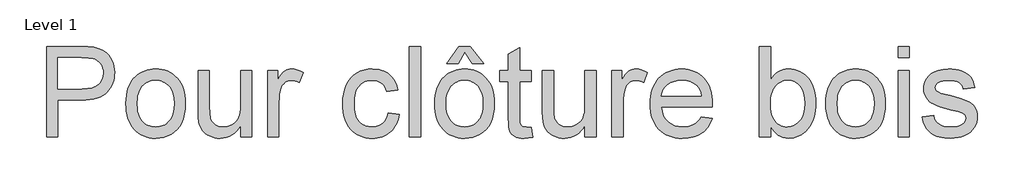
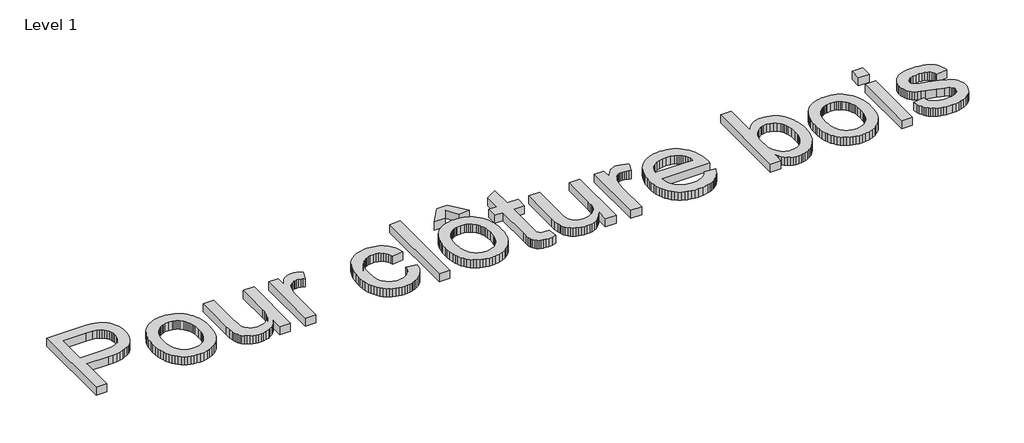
# One storey, part 2 of 4: 1 proxy.
"""IFC4 building model written with IfcOpenShell, lengths in millimetres."""

from ifc_helpers import new_model, si_unit, origin, origin_with_axes, place, context, project, spatial, polyline, outline, extrude, element, save

model = new_model("IFC4")

# Units and contexts
model_context = context("Model", 3, world=origin())
ifc_project = project(units=[si_unit("LENGTHUNIT", "METRE", prefix="MILLI")], contexts=[model_context])

# Site, building, storey
site = spatial("IfcSite", under=ifc_project)
building = spatial("IfcBuilding", under=site)
storey = spatial("IfcBuildingStorey", under=building, Name="Level 1", Elevation=0.0)

# Proxy
placement = place(None, origin())
element("IfcBuildingElementProxy", 1, Name="24\" Arial", ObjectType="24\" Arial", at=placement, inside=storey, context=model_context, shape_type="SweptSolid", body=[
    extrude(outline(polyline([(-79427.594753, -1624.5238862), (-79427.594753, -117.679234), (-78869.1498843, -117.679234), (-78739.103599, -121.2660834), (-78644.0061033, -132.0266318), (-78591.5944153, -143.3275068), (-78543.6203038, -158.8360322), (-78500.083769, -178.5522078), (-78460.9848107, -202.4760338), (-78425.9095617, -231.1018516), (-78394.4441548, -264.9240025), (-78366.58859, -303.9424866), (-78342.3428672, -348.1573039), (-78322.7071657, -396.1084227), (-78308.6816647, -446.3358114), (-78300.266364, -498.8394699), (-78297.4612638, -553.6193982), (-78299.3552813, -600.794516), (-78305.0373336, -646.1187274), (-78314.5074209, -689.5920326), (-78327.7655432, -731.2144314), (-78344.8117003, -770.985924), (-78365.6458924, -808.9065103), (-78390.2681193, -844.9761903), (-78418.6783812, -879.194964), (-78452.0320574, -910.407452), (-78491.4845273, -937.458275), (-78537.0357909, -960.3474328), (-78588.6858482, -979.0749257), (-78646.4346993, -993.6407534), (-78710.282344, -1004.0449161), (-78780.2287824, -1010.2874137), (-78856.2740145, -1012.3682462), (-79239.2391715, -1012.3682462), (-79239.2391715, -1624.5238862), (-79427.594753, -1624.5238862)]), holes=[polyline([(-79239.2391715, -824.0126647), (-78845.2375546, -824.0126647), (-78754.6466133, -819.6900513), (-78678.2191288, -806.7222109), (-78645.3166829, -796.9963307), (-78615.9551011, -785.1091437), (-78590.1343836, -771.06065), (-78567.8545303, -754.8508496), (-78531.9630431, -716.7520705), (-78506.3262666, -671.6175482), (-78490.9442006, -619.4472828), (-78485.8168453, -560.2412742), (-78488.8403755, -516.2793757), (-78497.9109659, -475.6284153), (-78513.0286167, -438.2883928), (-78534.1933277, -404.2593082), (-78560.2784604, -374.6448076), (-78590.1573762, -350.5485369), (-78623.8300751, -331.9704961), (-78661.296557, -318.9106853), (-78733.9532511, -309.2537829), (-78849.6521386, -306.0348155), (-79239.2391715, -306.0348155), (-79239.2391715, -824.0126647)])]), origin_with_axes(), (0.0, 0.0, 1.0), 150.0),
    extrude(outline(polyline([(-78109.1056823, -1071.2293655), (-78106.5592491, -997.0953953), (-78098.9199495, -927.9163357), (-78086.1877836, -863.6921868), (-78068.3627513, -804.4229485), (-78045.4448526, -750.1086208), (-78017.4340876, -700.7492037), (-77984.3304562, -656.3446972), (-77946.1339584, -616.8951014), (-77911.1736726, -588.1830613), (-77874.3509841, -563.2992932), (-77835.6658931, -542.2437972), (-77795.1183994, -525.0165731), (-77752.7085031, -511.6176211), (-77708.4362043, -502.046941), (-77662.3015028, -496.304533), (-77614.3043988, -494.390397), (-77561.1023393, -496.7212743), (-77510.3892314, -503.7139063), (-77462.1650752, -515.368293), (-77416.4298706, -531.6844343), (-77373.1836176, -552.6623302), (-77332.4263163, -578.3019809), (-77294.1579665, -608.6033861), (-77258.3785684, -643.5665461), (-77226.0020788, -682.6396377), (-77197.9424544, -725.2708379), (-77174.1996953, -771.4601469), (-77154.7738015, -821.2075645), (-77139.664773, -874.5130908), (-77128.8726098, -931.3767257), (-77122.3973119, -991.7984694), (-77120.2388792, -1055.7783217), (-77124.0556549, -1156.600981), (-77135.505982, -1246.0652837), (-77154.5898605, -1324.1712298), (-77181.3072904, -1390.9188193), (-77215.3248787, -1448.5728257), (-77256.3092322, -1499.3980226), (-77304.260351, -1543.39441), (-77359.1782351, -1580.5619878), (-77418.9245704, -1610.0960142), (-77481.3610428, -1631.1917474), (-77546.4876522, -1643.8491873), (-77614.3043988, -1648.0683339), (-77668.345689, -1645.7460788), (-77719.7370793, -1638.7793135), (-77768.4785696, -1627.168038), (-77814.5701599, -1610.9122524), (-77858.0118502, -1590.0119565), (-77898.8036405, -1564.4671505), (-77936.9455308, -1534.2778343), (-77972.4375211, -1499.4440078), (-78004.4691214, -1460.2415827), (-78032.2298416, -1416.9464704), (-78055.7196818, -1369.5586709), (-78074.938642, -1318.0781842), (-78089.8867221, -1262.5050103), (-78100.5639222, -1202.8391492), (-78106.9702423, -1139.0806009), (-78109.1056823, -1071.2293655)]), holes=[polyline([(-77920.7501008, -1070.8614835), (-77915.3008487, -1162.2226777), (-77908.4892836, -1203.307624), (-77898.9530925, -1241.328803), (-77886.6922754, -1276.2862148), (-77871.7068323, -1308.1798593), (-77853.9967631, -1337.0097366), (-77833.5620679, -1362.7758466), (-77811.0637846, -1385.4954339), (-77787.1629513, -1405.1857429), (-77761.8595678, -1421.8467736), (-77735.1536342, -1435.4785259), (-77707.0451505, -1446.081), (-77677.5341167, -1453.6541958), (-77614.3043988, -1459.7127524), (-77551.3965776, -1453.6197068), (-77522.0120032, -1446.0033999), (-77494.0069863, -1435.3405702), (-77467.3815269, -1421.6312177), (-77442.135625, -1404.8753425), (-77418.2692806, -1385.0729444), (-77395.7824936, -1362.2240236), (-77375.3477984, -1336.253854), (-77357.6377293, -1307.0877096), (-77342.6522861, -1274.7255904), (-77330.391469, -1239.1674963), (-77320.8552779, -1200.4134273), (-77314.0437128, -1158.4633836), (-77308.5944608, -1064.9753715), (-77314.0782018, -976.511248), (-77320.932878, -936.5644367), (-77330.5294247, -899.474459), (-77342.867842, -865.2413149), (-77357.9481297, -833.8650044), (-77375.7702879, -805.3455275), (-77396.3343166, -779.6828843), (-77442.8598927, -737.272988), (-77468.1144169, -720.6119574), (-77494.6967651, -706.980205), (-77522.6069374, -696.3777309), (-77551.8449338, -688.8045352), (-77614.3043988, -682.7459786), (-77677.5341167, -688.7815425), (-77707.0451505, -696.3259975), (-77735.1536342, -706.8882345), (-77761.8595678, -720.4682534), (-77787.1629513, -737.0660544), (-77811.0637846, -756.6816373), (-77833.5620679, -779.3150023), (-77853.9967631, -804.99489), (-77871.7068323, -833.7500413), (-77886.6922754, -865.5804561), (-77898.9530925, -900.4861344), (-77908.4892836, -938.4670764), (-77915.3008487, -979.5232818), (-77920.7501008, -1070.8614835)])]), origin_with_axes(), (0.0, 0.0, 1.0), 150.0),
    extrude(outline(polyline([(-76202.0054193, -1624.5238862), (-76202.0054193, -1434.3288947), (-76234.677939, -1484.4240758), (-76270.1555589, -1527.8398993), (-76308.438279, -1564.5763655), (-76349.5260994, -1594.6334741), (-76393.4190199, -1618.0112253), (-76440.1170407, -1634.7096189), (-76489.6201616, -1644.7286552), (-76541.9283828, -1648.0683339), (-76588.5919147, -1645.7230862), (-76633.6689554, -1638.687343), (-76677.159505, -1626.9611044), (-76719.0635635, -1610.5443704), (-76757.5302246, -1590.5867721), (-76790.7085821, -1568.2379409), (-76818.5986358, -1543.4978768), (-76841.2003859, -1516.3665796), (-76859.6749598, -1486.4531749), (-76875.1834852, -1453.3667879), (-76887.725962, -1417.1074188), (-76897.3023902, -1377.6750674), (-76905.5797351, -1306.3059604), (-76908.33885, -1202.5632377), (-76908.33885, -517.9348447), (-76719.9832685, -517.9348447), (-76719.9832685, -1113.9036769), (-76717.132183, -1233.0974433), (-76708.5789266, -1305.9380784), (-76697.3010442, -1339.8866887), (-76681.1257328, -1369.9955308), (-76660.0529922, -1396.2646045), (-76634.0828226, -1418.6939099), (-76603.9969732, -1436.6396535), (-76570.5771932, -1449.4580417), (-76533.8234826, -1457.1490747), (-76493.7358415, -1459.7127524), (-76452.4525838, -1457.0915931), (-76412.4799058, -1449.2281155), (-76373.8178073, -1436.1223194), (-76336.4662885, -1417.7742049), (-76302.4487003, -1394.9080397), (-76273.7883936, -1368.2480913), (-76250.4853685, -1337.7943599), (-76232.5396249, -1303.5468454), (-76219.1809099, -1263.3212485), (-76209.6389707, -1214.9332698), (-76203.9138071, -1158.3829094), (-76202.0054193, -1093.6701672), (-76202.0054193, -517.9348447), (-76013.6498378, -517.9348447), (-76013.6498378, -1624.5238862), (-76202.0054193, -1624.5238862)])), origin_with_axes(), (0.0, 0.0, 1.0), 150.0),
    extrude(outline(polyline([(-75754.6609131, -1624.5238862), (-75754.6609131, -517.9348447), (-75589.8497793, -517.9348447), (-75589.8497793, -681.6423326), (-75558.809736, -629.3111188), (-75528.9653091, -586.7287778), (-75500.3164987, -553.8953097), (-75472.8633048, -530.8107145), (-75445.3641257, -514.8768256), (-75416.5773596, -503.4954764), (-75386.5030065, -496.6666669), (-75355.1410664, -494.390397), (-75308.420053, -498.0232317), (-75261.3311576, -508.9217358), (-75213.8743802, -527.0859093), (-75166.0497209, -552.5157523), (-75228.957542, -721.373588), (-75262.0669216, -704.4740089), (-75295.1763012, -692.4028809), (-75328.2856807, -685.1602041), (-75361.3950603, -682.7459786), (-75390.2623006, -685.0682336), (-75417.6350203, -692.0349989), (-75443.5132194, -703.6462744), (-75467.8968979, -719.9020601), (-75489.8663508, -740.2735255), (-75508.5018731, -764.2318405), (-75523.8034649, -791.7770049), (-75535.771126, -822.9090187), (-75549.129841, -874.3205275), (-75558.6717802, -928.1232693), (-75564.3969438, -984.3172441), (-75566.3053316, -1042.9024518), (-75566.3053316, -1624.5238862), (-75754.6609131, -1624.5238862)])), origin_with_axes(), (0.0, 0.0, 1.0), 150.0),
    extrude(outline(polyline([(-73753.3828594, -1224.2682755), (-73565.0272779, -1247.8127231), (-73573.827705, -1293.5306833), (-73585.5137065, -1336.6907139), (-73600.0852824, -1377.2928151), (-73617.5424327, -1415.3369867), (-73637.8851574, -1450.8232288), (-73661.1134565, -1483.7515415), (-73687.22733, -1514.1219246), (-73716.2267779, -1541.9343783), (-73747.5312364, -1566.8095241), (-73780.5601418, -1588.3679839), (-73815.313494, -1606.6097575), (-73851.7912931, -1621.534845), (-73889.993539, -1633.1432464), (-73929.9202318, -1641.4349617), (-73971.5713715, -1646.4099908), (-74014.946958, -1648.0683339), (-74069.1319521, -1645.754701), (-74120.5865721, -1638.8138025), (-74169.310818, -1627.2456382), (-74215.3046896, -1611.0502081), (-74258.568187, -1590.2275124), (-74299.1013103, -1564.7775509), (-74336.9040594, -1534.7003237), (-74371.9764343, -1499.9958308), (-74403.5769228, -1460.9687245), (-74430.9640129, -1417.923657), (-74454.1377046, -1370.8606283), (-74473.0979977, -1319.7796384), (-74487.8448924, -1264.6806874), (-74498.3783886, -1205.5637753), (-74504.6984863, -1142.4289019), (-74506.8051855, -1075.2760674), (-74503.2068397, -988.6743465), (-74492.4118024, -907.6598334), (-74474.4200736, -832.232528), (-74449.2316533, -762.3924305), (-74416.6740967, -699.5420909), (-74376.5749592, -645.0840593), (-74328.9342408, -599.0183357), (-74273.7519416, -561.3449201), (-74213.5227612, -532.0523163), (-74150.7413994, -511.1290278), (-74085.4078563, -498.5750547), (-74017.5221319, -494.390397), (-73933.9554375, -500.1385532), (-73895.1640055, -507.3237484), (-73858.3671838, -517.3830217), (-73823.5649722, -530.3163731), (-73790.7573708, -546.1238026), (-73759.9443797, -564.8053102), (-73731.1259987, -586.3608958), (-73704.5551468, -610.5606333), (-73680.4847428, -637.1745964), (-73658.9147867, -666.2027851), (-73639.8452786, -697.6451994), (-73623.2762185, -731.5018392), (-73609.2076062, -767.7727047), (-73588.5717255, -847.5571124), (-73776.9273071, -871.1015601), (-73791.6310906, -827.1051727), (-73811.0943474, -788.9259194), (-73835.3170775, -756.5638001), (-73864.2992809, -730.0188149), (-73897.3051937, -709.336949), (-73933.5990518, -694.5641876), (-73973.1808552, -685.7005308), (-74016.0506039, -682.7459786), (-74080.0505748, -688.5631126), (-74109.6966903, -695.8345302), (-74137.7735591, -706.0145147), (-74164.2811813, -719.1030664), (-74189.2195569, -735.100185), (-74212.5886858, -754.0058706), (-74234.3885681, -775.8201233), (-74254.0903734, -800.7786174), (-74271.1652713, -829.1170274), (-74285.6132618, -860.8353532), (-74297.434345, -895.9335948), (-74306.6285208, -934.4117522), (-74313.1957892, -976.2698255), (-74318.449604, -1070.1257195), (-74313.3107524, -1165.3956599), (-74306.8871878, -1207.7796895), (-74297.8941975, -1246.6630919), (-74286.3317814, -1282.0458672), (-74272.1999394, -1313.9280155), (-74255.4986716, -1342.3095366), (-74236.2279781, -1367.1904306), (-74214.8822001, -1388.8753497), (-74191.9556792, -1407.6689464), (-74167.4484153, -1423.5712204), (-74141.3604086, -1436.5821719), (-74113.6916588, -1446.7018009), (-74084.4421661, -1453.9301073), (-74021.2009519, -1459.7127524), (-73970.2377992, -1456.1029103), (-73923.6662379, -1445.2733841), (-73881.4862679, -1427.2241737), (-73843.6978892, -1401.9552791), (-73811.3587626, -1369.1907889), (-73785.5265487, -1328.6547916), (-73766.2012477, -1280.3472871), (-73753.3828594, -1224.2682755)])), origin_with_axes(), (0.0, 0.0, 1.0), 150.0),
    extrude(outline(polyline([(-73400.216144, -1624.5238862), (-73400.216144, -117.679234), (-73211.8605625, -117.679234), (-73211.8605625, -1624.5238862), (-73400.216144, -1624.5238862)])), origin_with_axes(), (0.0, 0.0, 1.0), 150.0),
    extrude(outline(polyline([(-72976.4160856, -1071.2293655), (-72973.8696524, -997.0953953), (-72966.2303528, -927.9163357), (-72953.4981869, -863.6921868), (-72935.6731546, -804.4229485), (-72912.7552559, -750.1086208), (-72884.7444909, -700.7492037), (-72851.6408595, -656.3446972), (-72813.4443617, -616.8951014), (-72778.4840759, -588.1830613), (-72741.6613874, -563.2992932), (-72702.9762963, -542.2437972), (-72662.4288027, -525.0165731), (-72620.0189064, -511.6176211), (-72575.7466076, -502.046941), (-72529.6119061, -496.304533), (-72481.6148021, -494.390397), (-72428.4127426, -496.7212743), (-72377.6996347, -503.7139063), (-72329.4754785, -515.368293), (-72283.7402739, -531.6844343), (-72240.4940209, -552.6623302), (-72199.7367196, -578.3019809), (-72161.4683698, -608.6033861), (-72125.6889717, -643.5665461), (-72093.3124821, -682.6396377), (-72065.2528577, -725.2708379), (-72041.5100986, -771.4601469), (-72022.0842048, -821.2075645), (-72006.9751763, -874.5130908), (-71996.1830131, -931.3767257), (-71989.7077152, -991.7984694), (-71987.5492825, -1055.7783217), (-71991.3660582, -1156.600981), (-72002.8163853, -1246.0652837), (-72021.9002638, -1324.1712298), (-72048.6176937, -1390.9188193), (-72082.635282, -1448.5728257), (-72123.6196355, -1499.3980226), (-72171.5707543, -1543.39441), (-72226.4886384, -1580.5619878), (-72286.2349737, -1610.0960142), (-72348.6714461, -1631.1917474), (-72413.7980555, -1643.8491873), (-72481.6148021, -1648.0683339), (-72535.6560923, -1645.7460788), (-72587.0474826, -1638.7793135), (-72635.7889729, -1627.168038), (-72681.8805632, -1610.9122524), (-72725.3222535, -1590.0119565), (-72766.1140438, -1564.4671505), (-72804.2559341, -1534.2778343), (-72839.7479244, -1499.4440078), (-72871.7795246, -1460.2415827), (-72899.5402449, -1416.9464704), (-72923.0300851, -1369.5586709), (-72942.2490453, -1318.0781842), (-72957.1971254, -1262.5050103), (-72967.8743255, -1202.8391492), (-72974.2806456, -1139.0806009), (-72976.4160856, -1071.2293655)]), holes=[polyline([(-72788.060504, -1070.8614835), (-72782.611252, -1162.2226777), (-72775.7996869, -1203.307624), (-72766.2634958, -1241.328803), (-72754.0026787, -1276.2862148), (-72739.0172356, -1308.1798593), (-72721.3071664, -1337.0097366), (-72700.8724712, -1362.7758466), (-72678.3741879, -1385.4954339), (-72654.4733545, -1405.1857429), (-72629.1699711, -1421.8467736), (-72602.4640375, -1435.4785259), (-72574.3555538, -1446.081), (-72544.84452, -1453.6541958), (-72481.6148021, -1459.7127524), (-72418.7069809, -1453.6197068), (-72389.3224065, -1446.0033999), (-72361.3173896, -1435.3405702), (-72334.6919302, -1421.6312177), (-72309.4460283, -1404.8753425), (-72285.5796839, -1385.0729444), (-72263.0928969, -1362.2240236), (-72242.6582017, -1336.253854), (-72224.9481326, -1307.0877096), (-72209.9626894, -1274.7255904), (-72197.7018723, -1239.1674963), (-72188.1656812, -1200.4134273), (-72181.3541161, -1158.4633836), (-72175.9048641, -1064.9753715), (-72181.3886051, -976.511248), (-72188.2432813, -936.5644367), (-72197.839828, -899.474459), (-72210.1782453, -865.2413149), (-72225.258533, -833.8650044), (-72243.0806912, -805.3455275), (-72263.6447199, -779.6828843), (-72310.170296, -737.272988), (-72335.4248202, -720.6119574), (-72362.0071684, -706.980205), (-72389.9173407, -696.3777309), (-72419.1553371, -688.8045352), (-72481.6148021, -682.7459786), (-72544.84452, -688.7815425), (-72574.3555538, -696.3259975), (-72602.4640375, -706.8882345), (-72629.1699711, -720.4682534), (-72654.4733545, -737.0660544), (-72678.3741879, -756.6816373), (-72700.8724712, -779.3150023), (-72721.3071664, -804.99489), (-72739.0172356, -833.7500413), (-72754.0026787, -865.5804561), (-72766.2634958, -900.4861344), (-72775.7996869, -938.4670764), (-72782.611252, -979.5232818), (-72788.060504, -1070.8614835)])]), origin_with_axes(), (0.0, 0.0, 1.0), 150.0),
    extrude(outline(polyline([(-72481.9826841, -211.8570247), (-72587.9326987, -400.2126063), (-72776.2882802, -400.2126063), (-72576.1604748, -117.679234), (-72387.8048933, -117.679234), (-72164.1326402, -400.2126063), (-72352.4882218, -400.2126063), (-72481.9826841, -211.8570247)])), origin_with_axes(), (0.0, 0.0, 1.0), 150.0),
    extrude(outline(polyline([(-71375.3936426, -1467.4382743), (-71351.8491949, -1630.0421161), (-71426.4372694, -1643.5617795), (-71492.747999, -1648.0683339), (-71540.8255773, -1646.1139608), (-71583.1549993, -1640.2508415), (-71619.7362652, -1630.478976), (-71650.569375, -1616.7983643), (-71676.4590704, -1599.9447704), (-71698.2100933, -1580.6539583), (-71715.8224439, -1558.9259279), (-71729.2961219, -1534.7606794), (-71739.274921, -1502.3640712), (-71746.4026347, -1455.9419619), (-71750.6792629, -1395.4943516), (-71752.1048056, -1321.0212402), (-71752.1048056, -706.2904262), (-71893.3714918, -706.2904262), (-71893.3714918, -517.9348447), (-71752.1048056, -517.9348447), (-71752.1048056, -249.0131062), (-71563.7492241, -138.2806257), (-71563.7492241, -517.9348447), (-71375.3936426, -517.9348447), (-71375.3936426, -706.2904262), (-71563.7492241, -706.2904262), (-71563.7492241, -1315.5030103), (-71561.2660206, -1377.4911264), (-71553.8164102, -1412.623857), (-71540.8025846, -1432.0756175), (-71521.6267356, -1447.0208235), (-71494.4494533, -1456.5397702), (-71457.4313275, -1459.7127524), (-71375.3936426, -1467.4382743)])), origin_with_axes(), (0.0, 0.0, 1.0), 150.0),
    extrude(outline(polyline([(-70480.7046303, -1624.5238862), (-70480.7046303, -1434.3288947), (-70513.37715, -1484.4240758), (-70548.8547699, -1527.8398993), (-70587.13749, -1564.5763655), (-70628.2253104, -1594.6334741), (-70672.1182309, -1618.0112253), (-70718.8162517, -1634.7096189), (-70768.3193726, -1644.7286552), (-70820.6275938, -1648.0683339), (-70867.2911257, -1645.7230862), (-70912.3681664, -1638.687343), (-70955.858716, -1626.9611044), (-70997.7627745, -1610.5443704), (-71036.2294356, -1590.5867721), (-71069.4077931, -1568.2379409), (-71097.2978468, -1543.4978768), (-71119.8995969, -1516.3665796), (-71138.3741709, -1486.4531749), (-71153.8826962, -1453.3667879), (-71166.425173, -1417.1074188), (-71176.0016012, -1377.6750674), (-71184.2789461, -1306.3059604), (-71187.038061, -1202.5632377), (-71187.038061, -517.9348447), (-70998.6824795, -517.9348447), (-70998.6824795, -1113.9036769), (-70995.831394, -1233.0974433), (-70987.2781377, -1305.9380784), (-70976.0002552, -1339.8866887), (-70959.8249438, -1369.9955308), (-70938.7522032, -1396.2646045), (-70912.7820336, -1418.6939099), (-70882.6961842, -1436.6396535), (-70849.2764042, -1449.4580417), (-70812.5226936, -1457.1490747), (-70772.4350525, -1459.7127524), (-70731.1517948, -1457.0915931), (-70691.1791168, -1449.2281155), (-70652.5170184, -1436.1223194), (-70615.1654995, -1417.7742049), (-70581.1479113, -1394.9080397), (-70552.4876046, -1368.2480913), (-70529.1845795, -1337.7943599), (-70511.2388359, -1303.5468454), (-70497.8801209, -1263.3212485), (-70488.3381817, -1214.9332698), (-70482.6130181, -1158.3829094), (-70480.7046303, -1093.6701672), (-70480.7046303, -517.9348447), (-70292.3490488, -517.9348447), (-70292.3490488, -1624.5238862), (-70480.7046303, -1624.5238862)])), origin_with_axes(), (0.0, 0.0, 1.0), 150.0),
    extrude(outline(polyline([(-70033.3601242, -1624.5238862), (-70033.3601242, -517.9348447), (-69868.5489903, -517.9348447), (-69868.5489903, -681.6423326), (-69837.508947, -629.3111188), (-69807.6645201, -586.7287778), (-69779.0157097, -553.8953097), (-69751.5625159, -530.8107145), (-69724.0633367, -514.8768256), (-69695.2765706, -503.4954764), (-69665.2022175, -496.6666669), (-69633.8402774, -494.390397), (-69587.119264, -498.0232317), (-69540.0303686, -508.9217358), (-69492.5735913, -527.0859093), (-69444.7489319, -552.5157523), (-69507.6567531, -721.373588), (-69540.7661326, -704.4740089), (-69573.8755122, -692.4028809), (-69606.9848918, -685.1602041), (-69640.0942713, -682.7459786), (-69668.9615116, -685.0682336), (-69696.3342313, -692.0349989), (-69722.2124304, -703.6462744), (-69746.5961089, -719.9020601), (-69768.5655618, -740.2735255), (-69787.2010841, -764.2318405), (-69802.5026759, -791.7770049), (-69814.470337, -822.9090187), (-69827.829052, -874.3205275), (-69837.3709912, -928.1232693), (-69843.0961548, -984.3172441), (-69845.0045426, -1042.9024518), (-69845.0045426, -1624.5238862), (-70033.3601242, -1624.5238862)])), origin_with_axes(), (0.0, 0.0, 1.0), 150.0),
    extrude(outline(polyline([(-68552.2672116, -1294.9016185), (-68367.59045, -1318.4460662), (-68395.9058673, -1392.4133399), (-68413.7797589, -1426.1032832), (-68434.1311059, -1457.5974309), (-68456.9599081, -1486.8957829), (-68482.2661657, -1513.9983393), (-68510.0498786, -1538.9051), (-68540.3110467, -1561.616065), (-68572.9002182, -1581.8783155), (-68607.6679408, -1599.4389327), (-68644.6142146, -1614.2979164), (-68683.7390396, -1626.4552667), (-68768.5243432, -1642.6650671), (-68862.0238515, -1648.0683339), (-68922.0518464, -1645.7374566), (-68978.8953629, -1638.7448246), (-69032.5544008, -1627.0904379), (-69083.0289601, -1610.7742966), (-69130.319041, -1589.7964007), (-69174.4246433, -1564.1567501), (-69215.3457671, -1533.8553448), (-69253.0824124, -1498.8921849), (-69286.967793, -1459.7213746), (-69316.3351229, -1416.7970184), (-69341.1844021, -1370.1191161), (-69361.5156305, -1319.6876679), (-69377.3288081, -1265.5026738), (-69388.623935, -1207.5641336), (-69395.4010111, -1145.8720475), (-69397.6600365, -1080.4264153), (-69395.3780185, -1012.7533727), (-69388.5319645, -948.9775799), (-69377.1218745, -889.0990371), (-69361.1477485, -833.1177441), (-69340.6095865, -781.033701), (-69315.5073884, -732.8469078), (-69285.8411544, -688.5573644), (-69251.6108844, -648.165071), (-69213.7420315, -612.1241318), (-69173.1600489, -580.8886511), (-69129.8649366, -554.458629), (-69083.8566946, -532.8340655), (-69035.1353229, -516.0149605), (-68983.7008214, -504.0013141), (-68929.5531903, -496.7931263), (-68872.6924294, -494.390397), (-68817.691197, -496.7873781), (-68765.2593905, -503.9783215), (-68715.3970097, -515.9632271), (-68668.1040548, -532.742095), (-68623.3805257, -554.3149251), (-68581.2264224, -580.6817175), (-68541.6417449, -611.8424721), (-68504.6264932, -647.797189), (-68471.1291131, -688.0975119), (-68442.0980503, -732.2950848), (-68417.5333049, -780.3899075), (-68397.4348769, -832.3819801), (-68381.8027661, -888.2713026), (-68370.6369728, -948.0578749), (-68363.9374968, -1011.7416972), (-68361.7043381, -1079.3227694), (-68362.8079841, -1130.0904847), (-69209.304455, -1130.0904847), (-69198.3944545, -1205.2533748), (-69188.8956265, -1239.3341928), (-69176.7009131, -1271.0812593), (-69161.8103146, -1300.4945745), (-69144.2238308, -1327.5741382), (-69123.9414617, -1352.3199506), (-69100.9632074, -1374.7320115), (-69049.310276, -1411.9110856), (-68991.6562696, -1438.4675671), (-68928.0011881, -1454.4014561), (-68858.3450316, -1459.7127524), (-68806.243744, -1457.2525415), (-68758.0971879, -1449.871909), (-68713.9053632, -1437.5708548), (-68673.66827, -1420.3493789), (-68637.3859082, -1397.7476288), (-68605.0582779, -1369.305752), (-68576.685379, -1335.0237486), (-68552.2672116, -1294.9016185)]), holes=[polyline([(-69209.304455, -941.7349032), (-68550.0599196, -941.7349032), (-68559.7398146, -888.4379991), (-68575.5357478, -842.2228235), (-68597.4477191, -803.0893762), (-68625.4757286, -771.0376574), (-68650.2732744, -750.3442952), (-68676.8412522, -732.4100479), (-68705.1796621, -717.2349156), (-68735.2885042, -704.8188983), (-68800.8174846, -688.2642085), (-68873.4281934, -682.7459786), (-68939.6584488, -687.1490662), (-69000.393467, -700.3583291), (-69055.6332478, -722.3737672), (-69105.3777913, -753.1953806), (-69147.1209015, -791.3976266), (-69178.3563821, -835.5549623), (-69199.0842333, -885.6673878), (-69209.304455, -941.7349032)])]), origin_with_axes(), (0.0, 0.0, 1.0), 150.0),
    extrude(outline(polyline([(-67396.3819827, -1624.5238862), (-67584.7375643, -1624.5238862), (-67584.7375643, -117.679234), (-67396.3819827, -117.679234), (-67396.3819827, -676.4919846), (-67366.4110964, -633.811925), (-67334.4398518, -596.8225401), (-67300.4682488, -565.5238297), (-67264.4962875, -539.9157939), (-67226.5239678, -519.9984328), (-67186.5512897, -505.7717462), (-67144.5782533, -497.2357343), (-67100.6048586, -494.390397), (-67051.4236344, -496.9540747), (-67003.5759824, -504.6451076), (-66957.0619026, -517.4634959), (-66911.8813951, -535.4092395), (-66869.3450394, -557.9994932), (-66830.7634151, -584.7514121), (-66796.1365224, -615.664996), (-66765.464361, -650.740245), (-66738.3215675, -689.8162106), (-66714.2827784, -732.7319446), (-66693.3479936, -779.487447), (-66675.5172132, -830.0827176), (-66661.2732822, -883.5060811), (-66651.0990458, -938.7458619), (-66644.9945039, -995.8020601), (-66642.9596566, -1054.6746757), (-66645.0663558, -1123.5720756), (-66651.3864536, -1188.4457662), (-66661.9199498, -1249.2957474), (-66676.6668444, -1306.1220194), (-66695.6271376, -1358.924582), (-66718.8008292, -1407.7034353), (-66746.1879193, -1452.4585793), (-66777.7884078, -1493.1900139), (-66812.3434487, -1529.4896202), (-66848.5941956, -1560.9492789), (-66886.5406486, -1587.5689902), (-66926.1828076, -1609.3487539), (-66967.5206728, -1626.2885701), (-67010.554244, -1638.3884389), (-67055.2835213, -1645.6483601), (-67101.7085046, -1648.0683339), (-67147.3546128, -1644.9470851), (-67190.4830286, -1635.5833387), (-67231.0937519, -1619.9770947), (-67269.1867829, -1598.128353), (-67304.7621215, -1570.0371138), (-67337.8197676, -1535.703377), (-67368.3597214, -1495.1271426), (-67396.3819827, -1448.3084105), (-67396.3819827, -1624.5238862)]), holes=[polyline([(-67396.3819827, -1063.5038436), (-67393.1630153, -1148.3926139), (-67383.5061129, -1220.5894555), (-67367.4112756, -1280.0943682), (-67344.8785034, -1326.9073521), (-67322.9837765, -1358.0336178), (-67299.2381434, -1385.0097147), (-67273.6416039, -1407.8356429), (-67246.1941582, -1426.5114023), (-67216.8958062, -1441.036993), (-67185.7465479, -1451.4124148), (-67152.7463833, -1457.637668), (-67117.8953124, -1459.7127524), (-67061.5633819, -1453.5967142), (-67034.8804409, -1445.9516665), (-67009.1861828, -1435.2485997), (-66960.7637152, -1404.6684088), (-66916.295979, -1361.8561416), (-66896.3786179, -1335.8917202), (-66879.1169049, -1306.9267612), (-66864.51084, -1274.9612648), (-66852.5604234, -1239.9952307), (-66843.2656548, -1202.0286592), (-66836.6265344, -1161.0615502), (-66831.3152381, -1070.1257195), (-66836.4081045, -977.4654419), (-66851.6867036, -897.7730047), (-66863.145653, -862.7897263), (-66877.1510355, -831.0484079), (-66893.7028512, -802.5490495), (-66912.8011001, -777.2916513), (-66955.6708488, -735.9279195), (-67002.7942331, -706.3823967), (-67054.171253, -688.6550831), (-67109.8019085, -682.7459786), (-67166.133839, -688.8620167), (-67192.81678, -696.5070644), (-67218.5110381, -707.2101312), (-67266.9335057, -737.7903221), (-67311.4012418, -780.6025893), (-67331.318603, -806.429055), (-67348.580316, -834.9801467), (-67363.1863808, -866.2558644), (-67375.1367975, -900.2562082), (-67391.0706864, -976.4307738), (-67396.3819827, -1063.5038436)])]), origin_with_axes(), (0.0, 0.0, 1.0), 150.0),
    extrude(outline(polyline([(-66478.1485228, -1071.2293655), (-66475.6020896, -997.0953953), (-66467.96279, -927.9163357), (-66455.2306241, -863.6921868), (-66437.4055918, -804.4229485), (-66414.4876931, -750.1086208), (-66386.4769281, -700.7492037), (-66353.3732967, -656.3446972), (-66315.1767989, -616.8951014), (-66280.2165131, -588.1830613), (-66243.3938246, -563.2992932), (-66204.7087335, -542.2437972), (-66164.1612399, -525.0165731), (-66121.7513436, -511.6176211), (-66077.4790448, -502.046941), (-66031.3443433, -496.304533), (-65983.3472393, -494.390397), (-65930.1451798, -496.7212743), (-65879.4320719, -503.7139063), (-65831.2079157, -515.368293), (-65785.4727111, -531.6844343), (-65742.2264581, -552.6623302), (-65701.4691568, -578.3019809), (-65663.200807, -608.6033861), (-65627.4214089, -643.5665461), (-65595.0449193, -682.6396377), (-65566.9852949, -725.2708379), (-65543.2425358, -771.4601469), (-65523.816642, -821.2075645), (-65508.7076135, -874.5130908), (-65497.9154503, -931.3767257), (-65491.4401524, -991.7984694), (-65489.2817197, -1055.7783217), (-65493.0984954, -1156.600981), (-65504.5488225, -1246.0652837), (-65523.632701, -1324.1712298), (-65550.3501309, -1390.9188193), (-65584.3677192, -1448.5728257), (-65625.3520727, -1499.3980226), (-65673.3031915, -1543.39441), (-65728.2210756, -1580.5619878), (-65787.9674109, -1610.0960142), (-65850.4038833, -1631.1917474), (-65915.5304927, -1643.8491873), (-65983.3472393, -1648.0683339), (-66037.3885295, -1645.7460788), (-66088.7799198, -1638.7793135), (-66137.5214101, -1627.168038), (-66183.6130004, -1610.9122524), (-66227.0546907, -1590.0119565), (-66267.846481, -1564.4671505), (-66305.9883713, -1534.2778343), (-66341.4803616, -1499.4440078), (-66373.5119618, -1460.2415827), (-66401.2726821, -1416.9464704), (-66424.7625223, -1369.5586709), (-66443.9814825, -1318.0781842), (-66458.9295626, -1262.5050103), (-66469.6067627, -1202.8391492), (-66476.0130828, -1139.0806009), (-66478.1485228, -1071.2293655)]), holes=[polyline([(-66289.7929412, -1070.8614835), (-66284.3436892, -1162.2226777), (-66277.5321241, -1203.307624), (-66267.995933, -1241.328803), (-66255.7351159, -1276.2862148), (-66240.7496728, -1308.1798593), (-66223.0396036, -1337.0097366), (-66202.6049084, -1362.7758466), (-66180.1066251, -1385.4954339), (-66156.2057917, -1405.1857429), (-66130.9024083, -1421.8467736), (-66104.1964747, -1435.4785259), (-66076.087991, -1446.081), (-66046.5769572, -1453.6541958), (-65983.3472393, -1459.7127524), (-65920.4394181, -1453.6197068), (-65891.0548437, -1446.0033999), (-65863.0498268, -1435.3405702), (-65836.4243674, -1421.6312177), (-65811.1784655, -1404.8753425), (-65787.3121211, -1385.0729444), (-65764.8253341, -1362.2240236), (-65744.3906389, -1336.253854), (-65726.6805697, -1307.0877096), (-65711.6951266, -1274.7255904), (-65699.4343095, -1239.1674963), (-65689.8981184, -1200.4134273), (-65683.0865533, -1158.4633836), (-65677.6373013, -1064.9753715), (-65683.1210423, -976.511248), (-65689.9757185, -936.5644367), (-65699.5722652, -899.474459), (-65711.9106825, -865.2413149), (-65726.9909702, -833.8650044), (-65744.8131284, -805.3455275), (-65765.3771571, -779.6828843), (-65811.9027332, -737.272988), (-65837.1572573, -720.6119574), (-65863.7396056, -706.980205), (-65891.6497779, -696.3777309), (-65920.8877743, -688.8045352), (-65983.3472393, -682.7459786), (-66046.5769572, -688.7815425), (-66076.087991, -696.3259975), (-66104.1964747, -706.8882345), (-66130.9024083, -720.4682534), (-66156.2057917, -737.0660544), (-66180.1066251, -756.6816373), (-66202.6049084, -779.3150023), (-66223.0396036, -804.99489), (-66240.7496728, -833.7500413), (-66255.7351159, -865.5804561), (-66267.995933, -900.4861344), (-66277.5321241, -938.4670764), (-66284.3436892, -979.5232818), (-66289.7929412, -1070.8614835)])]), origin_with_axes(), (0.0, 0.0, 1.0), 150.0),
    extrude(outline(polyline([(-65277.3816905, -306.0348155), (-65277.3816905, -117.679234), (-65089.026109, -117.679234), (-65089.026109, -306.0348155), (-65277.3816905, -306.0348155)])), origin_with_axes(), (0.0, 0.0, 1.0), 150.0),
    extrude(outline(polyline([(-65277.3816905, -1624.5238862), (-65277.3816905, -517.9348447), (-65089.026109, -517.9348447), (-65089.026109, -1624.5238862), (-65277.3816905, -1624.5238862)])), origin_with_axes(), (0.0, 0.0, 1.0), 150.0),
    extrude(outline(polyline([(-64877.1260798, -1294.9016185), (-64688.7704982, -1271.3571708), (-64677.389149, -1314.3073938), (-64659.0640271, -1351.9233278), (-64633.7951326, -1384.2049729), (-64601.5824654, -1411.152329), (-64562.334055, -1432.3975142), (-64515.957931, -1447.5726465), (-64462.4540933, -1456.6777259), (-64401.822542, -1459.7127524), (-64341.2599685, -1456.9306448), (-64289.0667105, -1448.584322), (-64245.2427678, -1434.6737841), (-64209.7881405, -1415.1990309), (-64182.4269171, -1391.97648), (-64162.8831861, -1366.8225486), (-64151.1569475, -1339.7372367), (-64147.2482013, -1310.7205443), (-64151.1799402, -1285.2907014), (-64162.9751566, -1262.7119439), (-64182.6338507, -1242.984272), (-64210.1560225, -1226.1076854), (-64280.6973951, -1202.1953557), (-64404.029834, -1172.3969141), (-64575.9226962, -1122.6868595), (-64639.3133625, -1100.5564583), (-64687.6668522, -1080.2424743), (-64726.0300466, -1058.9628002), (-64759.4498266, -1033.9353282), (-64787.9261922, -1005.1600584), (-64811.4591436, -972.6369907), (-64829.8877323, -937.3433118), (-64843.05101, -900.2562082), (-64850.9489765, -861.3756798), (-64853.5816321, -820.7017267), (-64851.4663106, -783.5111563), (-64845.1203462, -747.7231359), (-64834.5437388, -713.3376657), (-64819.7364885, -680.3547456), (-64801.2734109, -649.4411617), (-64779.7293215, -621.2637001), (-64755.1042205, -595.8223609), (-64727.3981077, -573.117144), (-64675.3887907, -542.8128646), (-64607.6525183, -517.3830217), (-64529.3396386, -500.1385532), (-64445.6004994, -494.390397), (-64382.3018036, -496.7011558), (-64323.0038245, -503.6334321), (-64267.7065621, -515.1872261), (-64216.4100164, -531.3625375), (-64170.3327965, -551.4810841), (-64130.6935115, -574.8645835), (-64097.4921615, -601.5130355), (-64070.7287463, -631.4264402), (-64049.0237086, -665.6509621), (-64030.9974909, -705.2327655), (-64016.650093, -750.1718505), (-64005.9815152, -800.468217), (-64194.3370967, -824.0126647), (-64203.3157167, -792.5472578), (-64218.1114707, -764.7376782), (-64238.7243587, -740.583926), (-64265.1543808, -720.0860011), (-64297.5165, -703.7497412), (-64335.9256796, -692.0809842), (-64380.3819195, -685.07973), (-64430.8852196, -682.7459786), (-64489.4704273, -684.9762631), (-64539.0425262, -691.6671169), (-64579.6015162, -702.8185399), (-64611.1473972, -718.4305321), (-64634.8068081, -737.0085728), (-64651.7063872, -757.0581416), (-64661.8461347, -778.5792383), (-64665.2260505, -801.571863), (-64659.6158501, -830.5425701), (-64642.7852488, -856.3862803), (-64613.9984827, -879.4708755), (-64572.5197878, -897.9569457), (-64410.2838279, -938.0560832), (-64243.8632103, -987.2603001), (-64133.8205085, -1026.715644), (-64095.1009285, -1045.9604709), (-64060.7959325, -1069.114044), (-64030.9055204, -1096.1763633), (-64005.4296922, -1127.1474287), (-63985.069723, -1162.0732256), (-63970.5268879, -1200.9997393), (-63961.8011868, -1243.9269696), (-63958.8926198, -1290.8549166), (-63962.3070246, -1337.9897972), (-63972.5502389, -1383.7451204), (-63989.6222627, -1428.120886), (-64013.5230961, -1471.1170942), (-64043.8618644, -1511.0207944), (-64080.247693, -1546.119036), (-64122.6805818, -1576.411819), (-64171.160531, -1601.8991435), (-64224.3654646, -1622.0981643), (-64280.9733066, -1636.5260363), (-64340.984057, -1645.1827595), (-64404.397716, -1648.0683339), (-64505.7721983, -1642.5041187), (-64551.6482327, -1635.5488497), (-64594.316796, -1625.8114732), (-64633.7778881, -1613.291989), (-64670.0315091, -1597.9903973), (-64703.077659, -1579.906698), (-64732.9163377, -1559.0408911), (-64759.8751901, -1535.4389618), (-64784.2818612, -1509.1468955), (-64806.136351, -1480.164692), (-64825.4386594, -1448.4923515), (-64842.1887865, -1414.1298739), (-64856.3867323, -1377.0772592), (-64877.1260798, -1294.9016185)])), origin_with_axes(), (0.0, 0.0, 1.0), 150.0),
])

save(model, "model.ifc")
